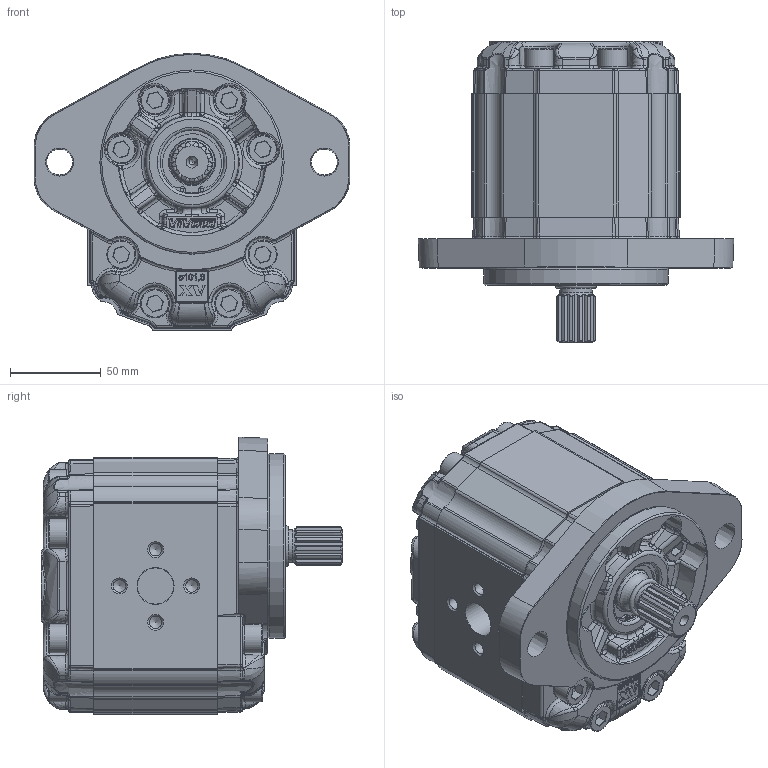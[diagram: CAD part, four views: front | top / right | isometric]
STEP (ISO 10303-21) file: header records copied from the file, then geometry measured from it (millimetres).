
FILE_DESCRIPTION(/* description */ ('Unknown'),/* implementation_level */ '2;1');
FILE_NAME(/* name */ 'X3M6831IAAE',/* time_stamp */ '2021-04-26T12:09:13+02:00',/* author */ ('Unknown'),/* organization */ ('Unknown'),/* preprocessor_version */ 'ST-DEVELOPER v16.7',/* originating_system */ 'Solid Edge',/* authorisation */ 'Unknown');
FILE_SCHEMA (('AUTOMOTIVE_DESIGN {1 0 10303 214 3 1 1}'));
Products named in the file (5): X3M6831IAAE; X3M31; 3I; X3AAH68; XM331-E
Assembly tree (4 placements, depth 2):
  X3M6831IAAE
    X3M31
    3I
    X3AAH68
    XM331-E
Bounding box: 174 x 166.2 x 153 mm (x, y, z)
Volume: 1811248 mm3; surface area: 196969.1 mm2
Topology: 4 solids, 21 shells, 2464 faces, 6311 edges, 3984 vertices
Faces by surface type: bspline 1018, plane 715, cylinder 509, cone 107, torus 99, sphere 16
Full cylindrical faces by diameter (mm): 2 x2, 6.8 x8, 10 x16, 15.25 x1, 15.8 x16, 16 x16, 18 x2, 20 x2, 24.98 x1, 25.5 x1, 26.8 x1, 29.425 x1, 31.42 x1, 33.304 x1, 34.7 x1, 35 x2, 35.2 x1, 37 x1, 101.6 x1
Entity records: 136300 total; most frequent: CARTESIAN_POINT 71470, ORIENTED_EDGE 12146, EDGE_CURVE 6073, DIRECTION 5742, VERTEX_POINT 3917, B_SPLINE_CURVE_WITH_KNOTS 3782, FACE_BOUND 2742, EDGE_LOOP 2732
